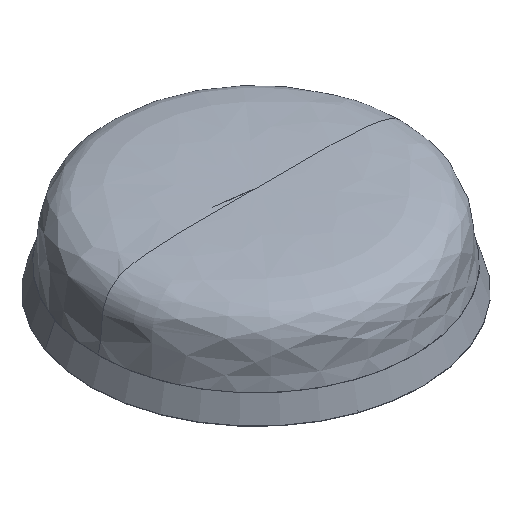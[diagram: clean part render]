
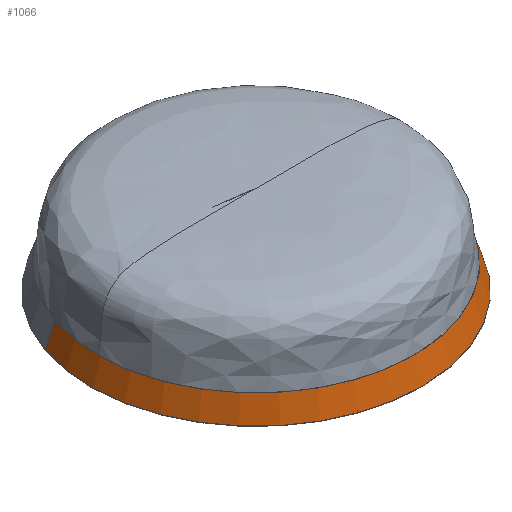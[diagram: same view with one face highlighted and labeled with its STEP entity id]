
A CAD part, isometric view. The second image highlights one B-rep face of the part: STEP entity #1066.
In plain terms, the highlighted conical face has half-angle 18.274 degrees and reference radius 55.783 mm.
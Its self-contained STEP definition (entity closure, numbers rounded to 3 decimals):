
#33 = DIRECTION ( 'NONE',  ( 0., 0., 1. ) ) ;
#64 = EDGE_CURVE ( 'NONE', #823, #87, #229, .T. ) ;
#76 = CARTESIAN_POINT ( 'NONE',  ( 0.014, 0.035, -4.498 ) ) ;
#87 = VERTEX_POINT ( 'NONE', #959 ) ;
#125 = LINE ( 'NONE', #733, #777 ) ;
#179 = LINE ( 'NONE', #298, #1105 ) ;
#184 = DIRECTION ( 'NONE',  ( 0.327, 0.945, 0. ) ) ;
#229 = CIRCLE ( 'NONE', #1584, 53.191 ) ;
#272 = DIRECTION ( 'NONE',  ( 0., -1., 0. ) ) ;
#291 = ORIENTED_EDGE ( 'NONE', *, *, #1160, .F. ) ;
#298 = CARTESIAN_POINT ( 'NONE',  ( 52.734, -18.195, -4.498 ) ) ;
#302 = AXIS2_PLACEMENT_3D ( 'NONE', #781, #304, #184 ) ;
#304 = DIRECTION ( 'NONE',  ( 0., 0., 1. ) ) ;
#350 = CARTESIAN_POINT ( 'NONE',  ( -18.216, -52.685, -4.498 ) ) ;
#455 = CIRCLE ( 'NONE', #302, 55.783 ) ;
#464 = EDGE_CURVE ( 'NONE', #1042, #504, #907, .T. ) ;
#504 = VERTEX_POINT ( 'NONE', #350 ) ;
#505 = ORIENTED_EDGE ( 'NONE', *, *, #464, .T. ) ;
#581 = DIRECTION ( 'NONE',  ( 0., 0., 1. ) ) ;
#598 = ORIENTED_EDGE ( 'NONE', *, *, #1246, .T. ) ;
#717 = DIRECTION ( 'NONE',  ( 0.945, -0.327, 0. ) ) ;
#733 = CARTESIAN_POINT ( 'NONE',  ( -52.706, 18.265, -4.498 ) ) ;
#777 = VECTOR ( 'NONE', #1484, 1000. ) ;
#781 = CARTESIAN_POINT ( 'NONE',  ( 0.014, 0.035, -4.498 ) ) ;
#795 = CARTESIAN_POINT ( 'NONE',  ( 0.014, 0.035, 3.352 ) ) ;
#823 = VERTEX_POINT ( 'NONE', #899 ) ;
#834 = CARTESIAN_POINT ( 'NONE',  ( -52.706, 18.265, -4.498 ) ) ;
#838 = CARTESIAN_POINT ( 'NONE',  ( 0.014, 0.035, -4.498 ) ) ;
#848 = AXIS2_PLACEMENT_3D ( 'NONE', #838, #1089, #717 ) ;
#899 = CARTESIAN_POINT ( 'NONE',  ( -50.256, 17.418, 3.352 ) ) ;
#907 = CIRCLE ( 'NONE', #1166, 55.783 ) ;
#959 = CARTESIAN_POINT ( 'NONE',  ( 50.284, -17.348, 3.352 ) ) ;
#1031 = DIRECTION ( 'NONE',  ( 0.296, -0.102, -0.95 ) ) ;
#1042 = VERTEX_POINT ( 'NONE', #834 ) ;
#1057 = EDGE_LOOP ( 'NONE', ( #1394, #598, #505, #1368, #291 ) ) ;
#1066 = ADVANCED_FACE ( 'NONE', ( #1279 ), #1125, .T. ) ;
#1089 = DIRECTION ( 'NONE',  ( 0., 0., -1. ) ) ;
#1105 = VECTOR ( 'NONE', #1031, 1000. ) ;
#1107 = CARTESIAN_POINT ( 'NONE',  ( 52.734, -18.195, -4.498 ) ) ;
#1125 = CONICAL_SURFACE ( 'NONE', #848, 55.783, 0.319 ) ;
#1160 = EDGE_CURVE ( 'NONE', #87, #1331, #179, .T. ) ;
#1166 = AXIS2_PLACEMENT_3D ( 'NONE', #76, #33, #1236 ) ;
#1186 = EDGE_CURVE ( 'NONE', #504, #1331, #455, .T. ) ;
#1236 = DIRECTION ( 'NONE',  ( 0.327, 0.945, 0. ) ) ;
#1246 = EDGE_CURVE ( 'NONE', #823, #1042, #125, .T. ) ;
#1279 = FACE_OUTER_BOUND ( 'NONE', #1057, .T. ) ;
#1331 = VERTEX_POINT ( 'NONE', #1107 ) ;
#1368 = ORIENTED_EDGE ( 'NONE', *, *, #1186, .T. ) ;
#1394 = ORIENTED_EDGE ( 'NONE', *, *, #64, .F. ) ;
#1484 = DIRECTION ( 'NONE',  ( -0.296, 0.102, -0.95 ) ) ;
#1584 = AXIS2_PLACEMENT_3D ( 'NONE', #795, #581, #272 ) ;
